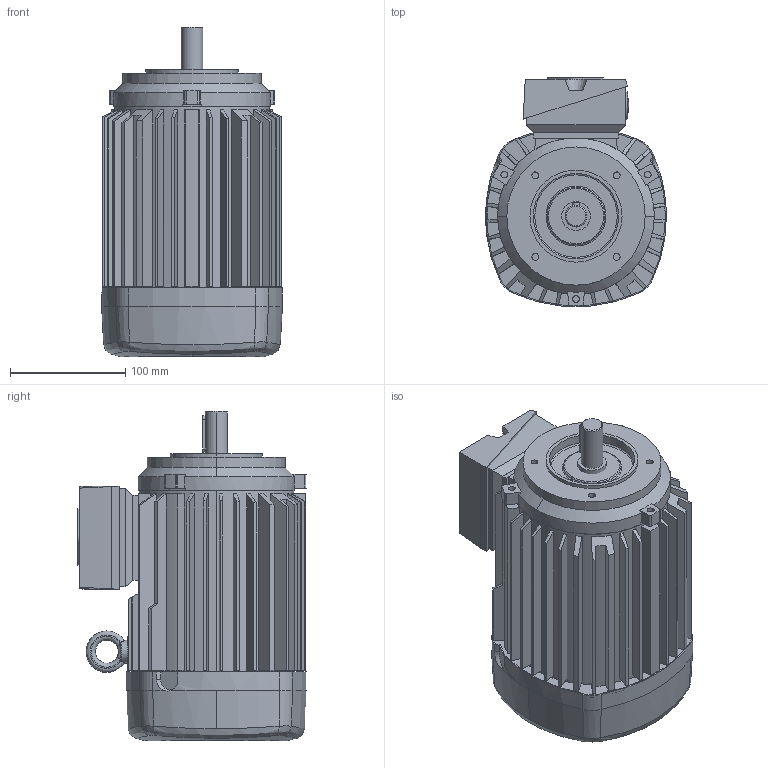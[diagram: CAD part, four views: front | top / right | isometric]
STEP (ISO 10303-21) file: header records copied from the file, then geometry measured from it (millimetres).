
FILE_DESCRIPTION (( 'STEP AP214' ), '1' );
FILE_NAME ('IE3-W41R80G_B14FT100.STEP', '2024-10-22T06:04:35', ( '' ), ( '' ), 'SwSTEP 2.0', 'SolidWorks 2023', '' );
FILE_SCHEMA (( 'AUTOMOTIVE_DESIGN' ));
Length unit declared in the file: millimetre
Products named in the file (10): RG 08 G_Kat; KD05_Kat; LHB_Kat_LHB08; Ringschraube_M8; WE_RWE_Kat_19x40 (W21R80); KA05_komplett_Kat_VSS_M20; Verschlussschraube_M20; IE3-W41R80G_B14FT100; KA05_Kat; LF_FT_klein_LF09 FT100
Assembly tree (9 placements, depth 3):
  IE3-W41R80G_B14FT100
    RG 08 G_Kat
    LHB_Kat_LHB08
    LF_FT_klein_LF09 FT100
    WE_RWE_Kat_19x40 (W21R80)
    KA05_komplett_Kat_VSS_M20
      KA05_Kat
      KD05_Kat
      Verschlussschraube_M20
    Ringschraube_M8
Bounding box: 157 x 198.26 x 286.5 mm (x, y, z)
Volume: 4496307.4 mm3; surface area: 379740.4 mm2
Topology: 8 solids, 8 shells, 423 faces, 1074 edges, 705 vertices
Faces by surface type: plane 221, cylinder 127, cone 47, bspline 16, torus 10, sphere 2
Entity records: 14579 total; most frequent: CARTESIAN_POINT 4109, ORIENTED_EDGE 2148, DIRECTION 2078, EDGE_CURVE 1074, AXIS2_PLACEMENT_3D 748, VERTEX_POINT 705, LINE 582, VECTOR 582
